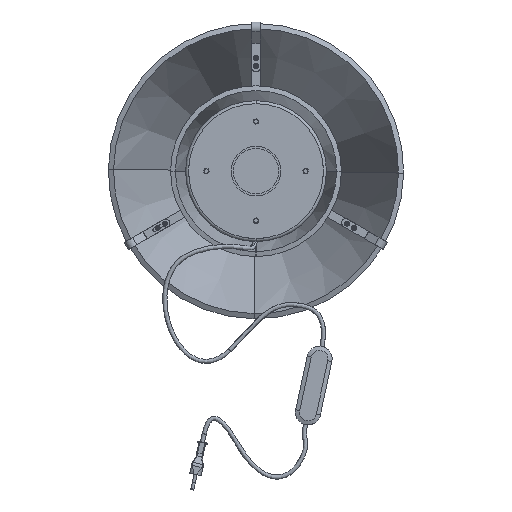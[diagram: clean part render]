
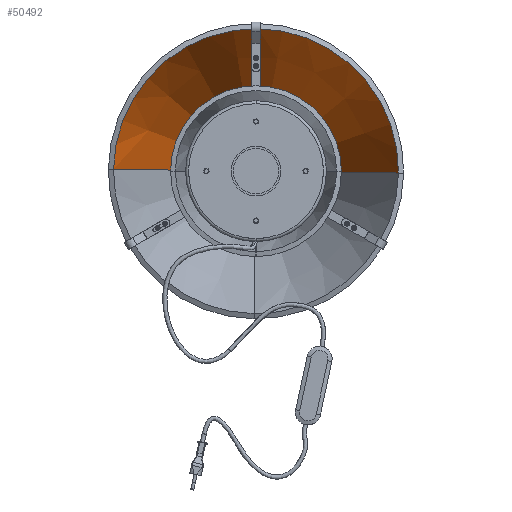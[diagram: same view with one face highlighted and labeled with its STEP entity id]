
A CAD part, front view. The second image highlights one B-rep face of the part: STEP entity #50492.
In plain terms, the highlighted conical face has half-angle 27 degrees and reference radius 172.149 mm.
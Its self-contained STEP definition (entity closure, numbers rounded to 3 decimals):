
#1711 = CONICAL_SURFACE ( 'NONE', #55585, 172.149, 0.471 ) ;
#2611 = CARTESIAN_POINT ( 'NONE',  ( 0., -3.178, 172.149 ) ) ;
#4228 = VECTOR ( 'NONE', #8909, 1000. ) ;
#5535 = CIRCLE ( 'NONE', #49394, 172.149 ) ;
#6417 = VERTEX_POINT ( 'NONE', #63958 ) ;
#7001 = CARTESIAN_POINT ( 'NONE',  ( 0., 194.822, 71.263 ) ) ;
#7008 = CARTESIAN_POINT ( 'NONE',  ( 0., -3.178, 0. ) ) ;
#8318 = VERTEX_POINT ( 'NONE', #63879 ) ;
#8909 = DIRECTION ( 'NONE',  ( 0., -0.891, 0.454 ) ) ;
#9046 = CARTESIAN_POINT ( 'NONE',  ( 0., -3.178, -172.149 ) ) ;
#11949 = DIRECTION ( 'NONE',  ( 0., 1., 0. ) ) ;
#14168 = DIRECTION ( 'NONE',  ( 0., -0.891, -0.454 ) ) ;
#14442 = DIRECTION ( 'NONE',  ( 0., 0., -1. ) ) ;
#17493 = EDGE_CURVE ( 'NONE', #6417, #8318, #61253, .T. ) ;
#19759 = EDGE_CURVE ( 'NONE', #32889, #49748, #61492, .T. ) ;
#19937 = EDGE_LOOP ( 'NONE', ( #58167, #65996, #20033, #69461 ) ) ;
#19941 = DIRECTION ( 'NONE',  ( 0., -1., 0. ) ) ;
#20033 = ORIENTED_EDGE ( 'NONE', *, *, #51651, .F. ) ;
#21905 = DIRECTION ( 'NONE',  ( 0., 0., 1. ) ) ;
#27512 = EDGE_CURVE ( 'NONE', #6417, #32889, #37970, .T. ) ;
#31363 = CARTESIAN_POINT ( 'NONE',  ( 0., 194.822, 0. ) ) ;
#32889 = VERTEX_POINT ( 'NONE', #7001 ) ;
#37970 = CIRCLE ( 'NONE', #42965, 71.263 ) ;
#41015 = DIRECTION ( 'NONE',  ( 0., 0., 1. ) ) ;
#42965 = AXIS2_PLACEMENT_3D ( 'NONE', #31363, #73316, #21905 ) ;
#42998 = VECTOR ( 'NONE', #14168, 1000. ) ;
#48036 = CARTESIAN_POINT ( 'NONE',  ( 0., -3.178, 0. ) ) ;
#49394 = AXIS2_PLACEMENT_3D ( 'NONE', #48036, #11949, #41015 ) ;
#49748 = VERTEX_POINT ( 'NONE', #2611 ) ;
#50492 = ADVANCED_FACE ( 'NONE', ( #68167 ), #1711, .F. ) ;
#51651 = EDGE_CURVE ( 'NONE', #8318, #49748, #5535, .T. ) ;
#55585 = AXIS2_PLACEMENT_3D ( 'NONE', #7008, #19941, #14442 ) ;
#58167 = ORIENTED_EDGE ( 'NONE', *, *, #27512, .T. ) ;
#61253 = LINE ( 'NONE', #9046, #42998 ) ;
#61492 = LINE ( 'NONE', #62664, #4228 ) ;
#62664 = CARTESIAN_POINT ( 'NONE',  ( 0., -3.178, 172.149 ) ) ;
#63879 = CARTESIAN_POINT ( 'NONE',  ( 0., -3.178, -172.149 ) ) ;
#63958 = CARTESIAN_POINT ( 'NONE',  ( 0., 194.822, -71.263 ) ) ;
#65996 = ORIENTED_EDGE ( 'NONE', *, *, #19759, .T. ) ;
#68167 = FACE_OUTER_BOUND ( 'NONE', #19937, .T. ) ;
#69461 = ORIENTED_EDGE ( 'NONE', *, *, #17493, .F. ) ;
#73316 = DIRECTION ( 'NONE',  ( 0., 1., 0. ) ) ;
